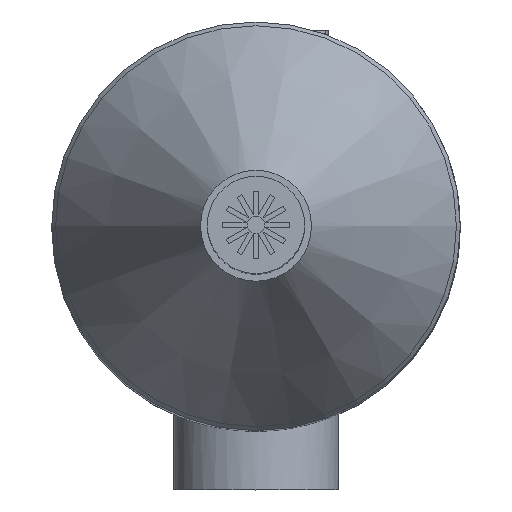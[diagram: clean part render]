
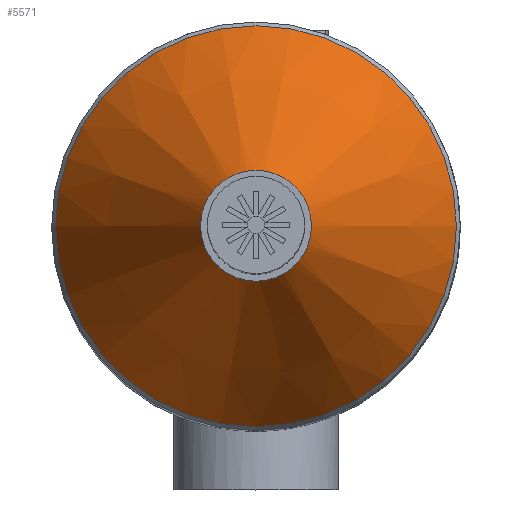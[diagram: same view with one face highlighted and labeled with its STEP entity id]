
A CAD part, top view. The second image highlights one B-rep face of the part: STEP entity #5571.
In plain terms, the highlighted conical face has half-angle 30.964 degrees and reference radius 20.6 mm.
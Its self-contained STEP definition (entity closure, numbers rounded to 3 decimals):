
#5524 = PLANE('',#5525);
#5525 = AXIS2_PLACEMENT_3D('',#5526,#5527,#5528);
#5526 = CARTESIAN_POINT('',(0.,0.,137.));
#5527 = DIRECTION('',(0.,0.,1.));
#5528 = DIRECTION('',(1.,0.,-0.));
#5543 = EDGE_CURVE('',#5544,#5544,#5546,.T.);
#5544 = VERTEX_POINT('',#5545);
#5545 = CARTESIAN_POINT('',(5.,0.,137.));
#5546 = SURFACE_CURVE('',#5547,(#5552,#5559),.PCURVE_S1.);
#5547 = CIRCLE('',#5548,5.);
#5548 = AXIS2_PLACEMENT_3D('',#5549,#5550,#5551);
#5549 = CARTESIAN_POINT('',(0.,0.,137.));
#5550 = DIRECTION('',(0.,0.,1.));
#5551 = DIRECTION('',(1.,0.,-0.));
#5552 = PCURVE('',#5524,#5553);
#5553 = DEFINITIONAL_REPRESENTATION('',(#5554),#5558);
#5554 = CIRCLE('',#5555,5.);
#5555 = AXIS2_PLACEMENT_2D('',#5556,#5557);
#5556 = CARTESIAN_POINT('',(0.,0.));
#5557 = DIRECTION('',(1.,0.));
#5558 = ( GEOMETRIC_REPRESENTATION_CONTEXT(2) 
PARAMETRIC_REPRESENTATION_CONTEXT() REPRESENTATION_CONTEXT('2D SPACE',''
  ) );
#5559 = PCURVE('',#5560,#5565);
#5560 = CONICAL_SURFACE('',#5561,20.6,0.54);
#5561 = AXIS2_PLACEMENT_3D('',#5562,#5563,#5564);
#5562 = CARTESIAN_POINT('',(0.,0.,111.));
#5563 = DIRECTION('',(-0.,-0.,-1.));
#5564 = DIRECTION('',(1.,0.,-0.));
#5565 = DEFINITIONAL_REPRESENTATION('',(#5566),#5570);
#5566 = LINE('',#5567,#5568);
#5567 = CARTESIAN_POINT('',(-0.,-26.));
#5568 = VECTOR('',#5569,1.);
#5569 = DIRECTION('',(-1.,-0.));
#5570 = ( GEOMETRIC_REPRESENTATION_CONTEXT(2) 
PARAMETRIC_REPRESENTATION_CONTEXT() REPRESENTATION_CONTEXT('2D SPACE',''
  ) );
#5571 = ADVANCED_FACE('',(#5572),#5560,.T.);
#5572 = FACE_BOUND('',#5573,.T.);
#5573 = EDGE_LOOP('',(#5574,#5575,#5598,#5624));
#5574 = ORIENTED_EDGE('',*,*,#5543,.F.);
#5575 = ORIENTED_EDGE('',*,*,#5576,.F.);
#5576 = EDGE_CURVE('',#5577,#5544,#5579,.T.);
#5577 = VERTEX_POINT('',#5578);
#5578 = CARTESIAN_POINT('',(20.6,0.,111.));
#5579 = SEAM_CURVE('',#5580,(#5584,#5591),.PCURVE_S1.);
#5580 = LINE('',#5581,#5582);
#5581 = CARTESIAN_POINT('',(20.6,0.,111.));
#5582 = VECTOR('',#5583,1.);
#5583 = DIRECTION('',(-0.514,0.,0.857)
  );
#5584 = PCURVE('',#5560,#5585);
#5585 = DEFINITIONAL_REPRESENTATION('',(#5586),#5590);
#5586 = LINE('',#5587,#5588);
#5587 = CARTESIAN_POINT('',(-6.283,0.));
#5588 = VECTOR('',#5589,1.);
#5589 = DIRECTION('',(-0.,-1.));
#5590 = ( GEOMETRIC_REPRESENTATION_CONTEXT(2) 
PARAMETRIC_REPRESENTATION_CONTEXT() REPRESENTATION_CONTEXT('2D SPACE',''
  ) );
#5591 = PCURVE('',#5560,#5592);
#5592 = DEFINITIONAL_REPRESENTATION('',(#5593),#5597);
#5593 = LINE('',#5594,#5595);
#5594 = CARTESIAN_POINT('',(0.,-0.));
#5595 = VECTOR('',#5596,1.);
#5596 = DIRECTION('',(-0.,-1.));
#5597 = ( GEOMETRIC_REPRESENTATION_CONTEXT(2) 
PARAMETRIC_REPRESENTATION_CONTEXT() REPRESENTATION_CONTEXT('2D SPACE',''
  ) );
#5598 = ORIENTED_EDGE('',*,*,#5599,.T.);
#5599 = EDGE_CURVE('',#5577,#5577,#5600,.T.);
#5600 = SURFACE_CURVE('',#5601,(#5606,#5612),.PCURVE_S1.);
#5601 = CIRCLE('',#5602,20.6);
#5602 = AXIS2_PLACEMENT_3D('',#5603,#5604,#5605);
#5603 = CARTESIAN_POINT('',(0.,0.,111.));
#5604 = DIRECTION('',(0.,0.,1.));
#5605 = DIRECTION('',(1.,0.,-0.));
#5606 = PCURVE('',#5560,#5607);
#5607 = DEFINITIONAL_REPRESENTATION('',(#5608),#5611);
#5608 = B_SPLINE_CURVE_WITH_KNOTS('',1,(#5609,#5610),.UNSPECIFIED.,.F.,
  .F.,(2,2),(0.,6.283),.PIECEWISE_BEZIER_KNOTS.);
#5609 = CARTESIAN_POINT('',(0.,0.));
#5610 = CARTESIAN_POINT('',(-6.283,0.));
#5611 = ( GEOMETRIC_REPRESENTATION_CONTEXT(2) 
PARAMETRIC_REPRESENTATION_CONTEXT() REPRESENTATION_CONTEXT('2D SPACE',''
  ) );
#5612 = PCURVE('',#5613,#5618);
#5613 = CONICAL_SURFACE('',#5614,19.8,0.261);
#5614 = AXIS2_PLACEMENT_3D('',#5615,#5616,#5617);
#5615 = CARTESIAN_POINT('',(0.,0.,108.));
#5616 = DIRECTION('',(0.,0.,1.));
#5617 = DIRECTION('',(1.,0.,-0.));
#5618 = DEFINITIONAL_REPRESENTATION('',(#5619),#5623);
#5619 = LINE('',#5620,#5621);
#5620 = CARTESIAN_POINT('',(0.,3.));
#5621 = VECTOR('',#5622,1.);
#5622 = DIRECTION('',(1.,0.));
#5623 = ( GEOMETRIC_REPRESENTATION_CONTEXT(2) 
PARAMETRIC_REPRESENTATION_CONTEXT() REPRESENTATION_CONTEXT('2D SPACE',''
  ) );
#5624 = ORIENTED_EDGE('',*,*,#5576,.T.);
